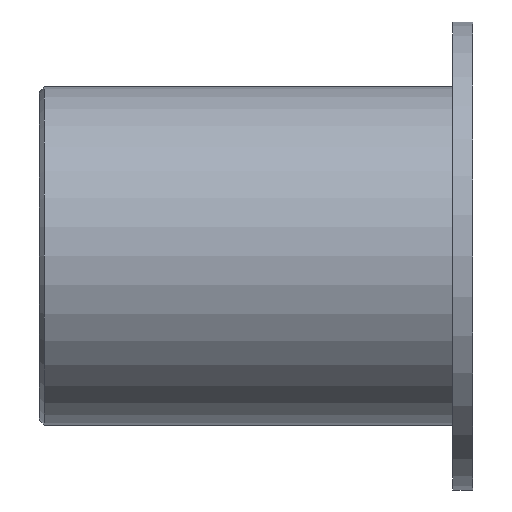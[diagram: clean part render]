
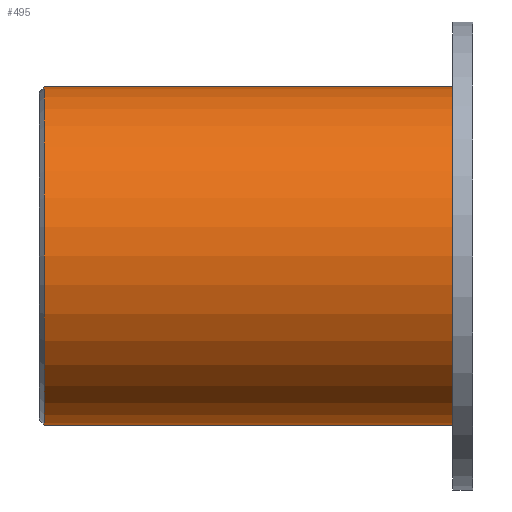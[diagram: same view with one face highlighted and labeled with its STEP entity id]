
A CAD part, front view. The second image highlights one B-rep face of the part: STEP entity #495.
In plain terms, the highlighted cylindrical face has radius 17 mm (diameter 34 mm), a full revolution.
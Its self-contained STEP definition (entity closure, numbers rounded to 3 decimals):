
#18=CYLINDRICAL_SURFACE('',#547,17.);
#36=FACE_BOUND('',#97,.T.);
#63=FACE_OUTER_BOUND('',#96,.T.);
#96=EDGE_LOOP('',(#397));
#97=EDGE_LOOP('',(#398));
#195=CIRCLE('',#546,17.);
#196=CIRCLE('',#548,17.);
#242=VERTEX_POINT('',#832);
#243=VERTEX_POINT('',#835);
#301=EDGE_CURVE('',#242,#242,#195,.T.);
#302=EDGE_CURVE('',#243,#243,#196,.T.);
#397=ORIENTED_EDGE('',*,*,#302,.T.);
#398=ORIENTED_EDGE('',*,*,#301,.F.);
#495=ADVANCED_FACE('',(#63,#36),#18,.T.);
#546=AXIS2_PLACEMENT_3D('',#833,#670,#671);
#547=AXIS2_PLACEMENT_3D('',#834,#672,#673);
#548=AXIS2_PLACEMENT_3D('',#836,#674,#675);
#670=DIRECTION('center_axis',(-1.,0.,0.));
#671=DIRECTION('ref_axis',(0.,0.,-1.));
#672=DIRECTION('center_axis',(1.,0.,0.));
#673=DIRECTION('ref_axis',(0.,0.,-1.));
#674=DIRECTION('center_axis',(-1.,0.,0.));
#675=DIRECTION('ref_axis',(0.,0.,-1.));
#832=CARTESIAN_POINT('',(0.5,0.,17.));
#833=CARTESIAN_POINT('Origin',(0.5,0.,0.));
#834=CARTESIAN_POINT('Origin',(0.,0.,0.));
#835=CARTESIAN_POINT('',(41.5,0.,17.));
#836=CARTESIAN_POINT('Origin',(41.5,0.,0.));
